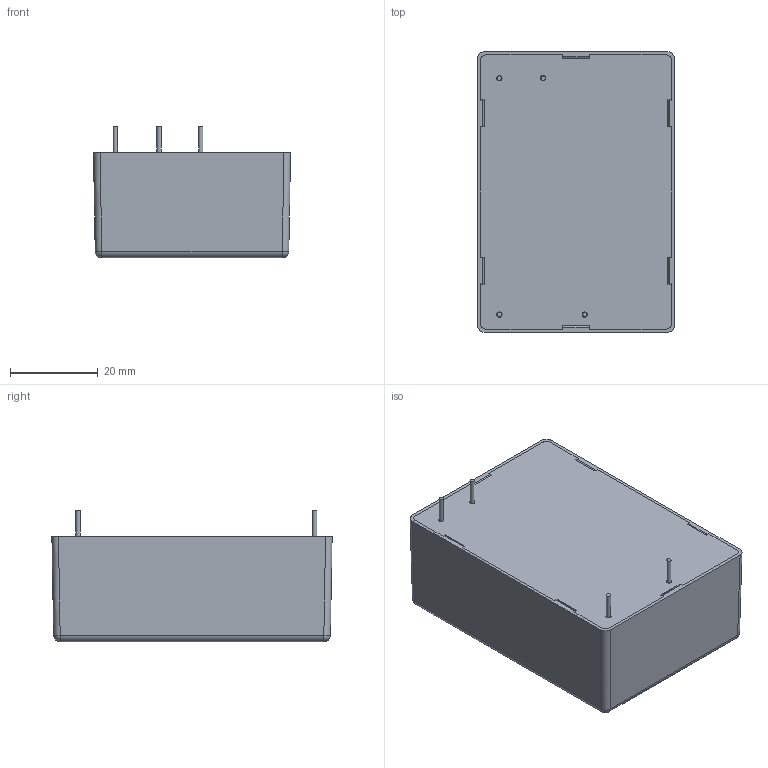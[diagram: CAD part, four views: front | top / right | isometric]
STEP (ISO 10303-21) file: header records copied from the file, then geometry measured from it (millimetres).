
FILE_DESCRIPTION(/* description */ (''),/* implementation_level */ '2;1');
FILE_NAME(/* name */ 'C:\Users\Calliope\Desktop\轉檔暫存用\AMF-30.stp',/* time_stamp */ '2024-03-01T18:26:53+08:00',/* author */ ('Calliope'),/* organization */ (''),/* preprocessor_version */ 'ST-DEVELOPER v16.1',/* originating_system */ 'Autodesk Inventor 2016',/* authorisation */ '');
FILE_SCHEMA (('AUTOMOTIVE_DESIGN { 1 0 10303 214 3 1 1 }'));
Length unit declared in the file: millimetre
Products named in the file (1): AMF-30 PCB Mounting(MINMAX)
Bounding box: 45 x 64 x 30 mm (x, y, z)
Volume: 67880.2 mm3; surface area: 11445.6 mm2
Topology: 1 solids, 1 shells, 132 faces, 351 edges, 218 vertices
Faces by surface type: plane 78, cylinder 38, cone 8, sphere 4, torus 4
Full cylindrical faces by diameter (mm): 1 x4, 1.2 x4
Entity records: 4154 total; most frequent: ORIENTED_EDGE 698, DIRECTION 697, CARTESIAN_POINT 678, EDGE_CURVE 331, AXIS2_PLACEMENT_3D 233, LINE 231, VECTOR 231, VERTEX_POINT 214
